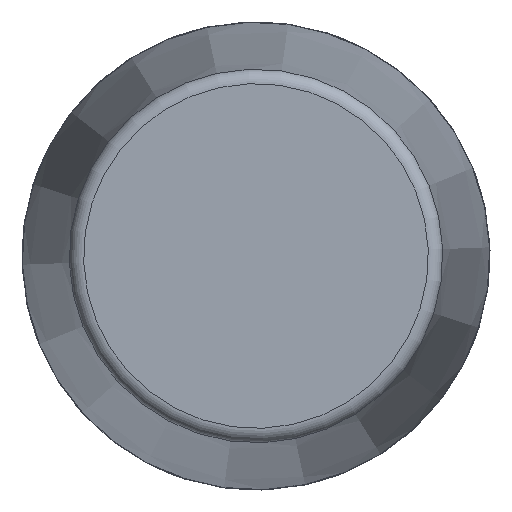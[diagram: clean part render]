
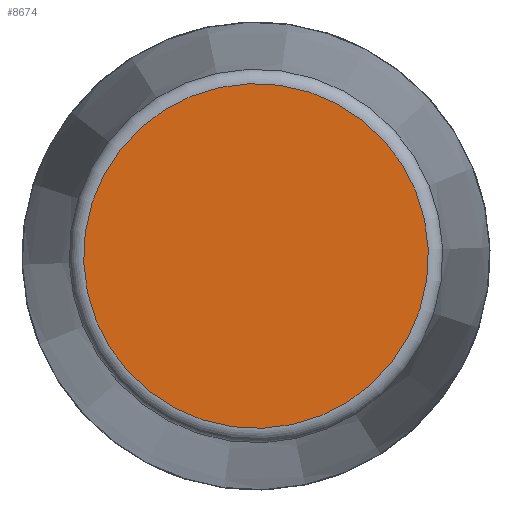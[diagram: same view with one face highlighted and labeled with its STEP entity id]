
A CAD part, front view. The second image highlights one B-rep face of the part: STEP entity #8674.
In plain terms, the highlighted planar face has unit normal (0, -1, 0) as drawn and (1, 0, 0) by its records, which use the part's own axes.
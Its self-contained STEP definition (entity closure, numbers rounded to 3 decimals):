
#2461=PLANE('',#9064);
#3029=FACE_OUTER_BOUND('',#3573,.T.);
#3573=EDGE_LOOP('',(#8172));
#3614=CIRCLE('',#9060,119.643);
#4458=VERTEX_POINT('',#16057);
#5699=EDGE_CURVE('',#4458,#4458,#3614,.T.);
#8172=ORIENTED_EDGE('',*,*,#5699,.F.);
#8674=ADVANCED_FACE('',(#3029),#2461,.T.);
#9060=AXIS2_PLACEMENT_3D('',#16058,#10490,#10491);
#9064=AXIS2_PLACEMENT_3D('',#16064,#10498,#10499);
#10490=DIRECTION('center_axis',(-1.,0.,0.));
#10491=DIRECTION('ref_axis',(0.,0.,
1.));
#10498=DIRECTION('center_axis',(1.,0.,0.));
#10499=DIRECTION('ref_axis',(0.,0.,-1.));
#16057=CARTESIAN_POINT('',(593.5,0.,-119.643));
#16058=CARTESIAN_POINT('Origin',(593.5,0.,0.));
#16064=CARTESIAN_POINT('Origin',(593.5,0.,0.));
